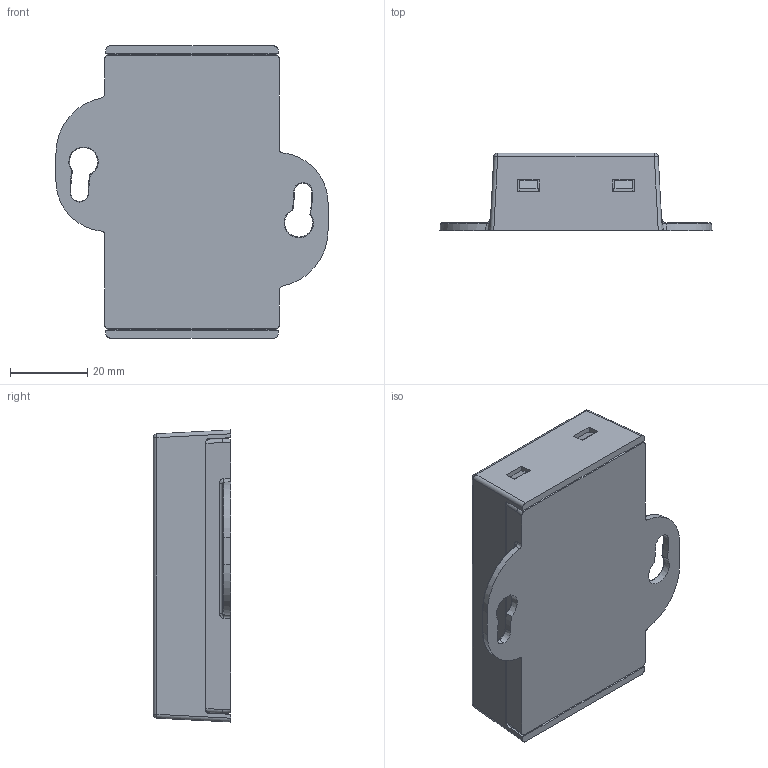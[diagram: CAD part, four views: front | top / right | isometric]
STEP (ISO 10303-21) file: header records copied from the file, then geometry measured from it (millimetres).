
FILE_DESCRIPTION (( 'STEP AP214' ), '1' );
FILE_NAME ('01-0201-0001_ SQ2-VA Assembly.STEP', '2021-09-22T15:36:39', ( '' ), ( '' ), 'SwSTEP 2.0', 'SolidWorks 2021', '' );
FILE_SCHEMA (( 'AUTOMOTIVE_DESIGN' ));
Length unit declared in the file: millimetre
Products named in the file (25): SOT-23.stp; RESC1608X84N.stp; Pheonix Contact 1_Purple; RESC6431X63N.stp; Pheonix Contact 1a_Red; PIC16F15356.stp; 106157_asm.stp; Part5; DIOM7959X262N.stp; L-DR_125.stp; Pheonix Contact 1_Red; SOD2512X100N.stp; Full-6; APTCV2VAS_09032021_01-17-32.stp; 3MM-STRUCTURE.stp; TO-252AA.stp; CAPC2012X145N.stp; DBV0006A_M.stp; 01-0201-0201_Top Casing; SOIC127P600X175-8N.stp; 01-0201-0001_ SQ2-VA Assembly; 01-0201-0101_Bottom Casing; LTST-C191KFKT.stp; 4 pins; option 3
Assembly tree (75 placements, depth 4):
  01-0201-0001_ SQ2-VA Assembly
    01-0201-0101_Bottom Casing
    01-0201-0201_Top Casing
    option 3
      106157_asm.stp
        APTCV2VAS_09032021_01-17-32.stp
        CAPC2012X145N.stp  x7
        LTST-C191KFKT.stp
        SOD2512X100N.stp
        DIOM7959X262N.stp  x2
        L-DR_125.stp  x2
        TO-252AA.stp  x3
        SOT-23.stp  x2
        RESC1608X84N.stp  x31
        RESC6431X63N.stp  x3
        PIC16F15356.stp
        SOIC127P600X175-8N.stp
        3MM-STRUCTURE.stp
        DBV0006A_M.stp  x2
      Full-6
        Pheonix Contact 1_Purple  x5
        Pheonix Contact 1a_Red
      4 pins
        Pheonix Contact 1a_Red
        Pheonix Contact 1_Red  x3
      Part5
Bounding box: 70.35 x 20 x 75.5 mm (x, y, z)
Volume: 30985 mm3; surface area: 36785 mm2
Topology: 71 solids, 71 shells, 3039 faces, 7680 edges, 4945 vertices
Faces by surface type: plane 2087, cylinder 612, bspline 300, torus 20, cone 14, sphere 6
Entity records: 39330 total; most frequent: CARTESIAN_POINT 8524, ORIENTED_EDGE 6160, DIRECTION 5874, EDGE_CURVE 3080, LINE 2310, VECTOR 2310, VERTEX_POINT 1985, AXIS2_PLACEMENT_3D 1782
